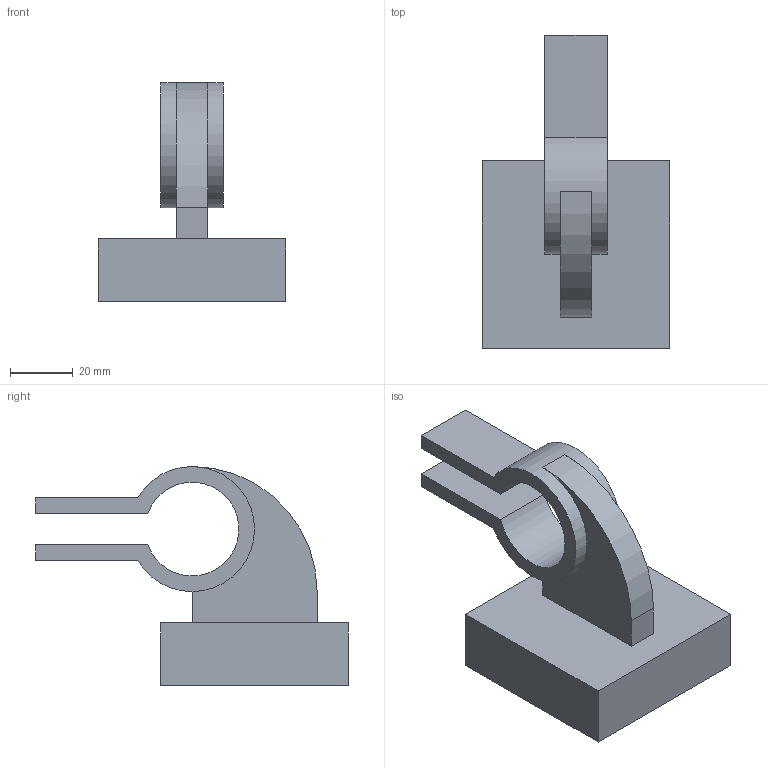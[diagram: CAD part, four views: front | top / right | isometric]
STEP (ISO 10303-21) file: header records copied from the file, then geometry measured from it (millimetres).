
FILE_DESCRIPTION(/* description */ (''),/* implementation_level */ '2;1');
FILE_NAME(/* name */ 'E:\OneDrive\School\Courses\Graphic Communication\Higher\Projects\Technical Graphics\Higher GC Technical Graphics\AS STEP\Section_6.stp',/* time_stamp */ '2020-12-07T16:36:15+00:00',/* author */ ('hunte'),/* organization */ (''),/* preprocessor_version */ 'ST-DEVELOPER v18.1',/* originating_system */ 'Autodesk Inventor 2020',/* authorisation */ '');
FILE_SCHEMA (('AUTOMOTIVE_DESIGN { 1 0 10303 214 3 1 1 }'));
Length unit declared in the file: millimetre
Products named in the file (1): Part_6
Bounding box: 60 x 100 x 70 mm (x, y, z)
Volume: 73569.3 mm3; surface area: 24202.2 mm2
Topology: 1 solids, 1 shells, 26 faces, 63 edges, 42 vertices
Faces by surface type: plane 23, cylinder 3
Entity records: 796 total; most frequent: CARTESIAN_POINT 132, ORIENTED_EDGE 126, DIRECTION 125, EDGE_CURVE 63, LINE 55, VECTOR 55, VERTEX_POINT 42, AXIS2_PLACEMENT_3D 35
